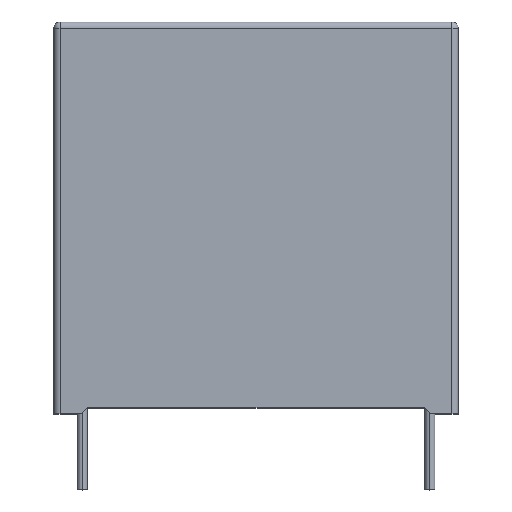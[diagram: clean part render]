
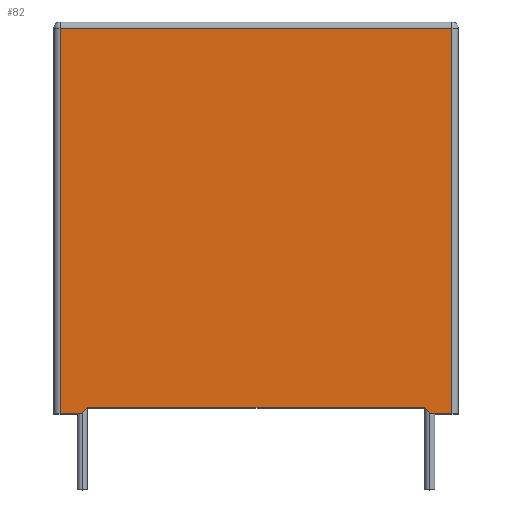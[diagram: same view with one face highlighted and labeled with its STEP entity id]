
A CAD part, top view. The second image highlights one B-rep face of the part: STEP entity #82.
In plain terms, the highlighted planar face has unit normal (0, 0, 1).
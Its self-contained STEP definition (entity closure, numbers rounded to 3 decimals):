
#8 = EDGE_CURVE ( 'NONE', #3207, #3250, #1920, .T. ) ;
#9 = EDGE_CURVE ( 'NONE', #2718, #3250, #1917, .T. ) ;
#82 = ADVANCED_FACE ( 'NONE', ( #1452 ), #2416, .F. ) ;
#87 = VECTOR ( 'NONE', #1010, 1000. ) ;
#250 = DIRECTION ( 'NONE',  ( 1., 0., 0. ) ) ;
#314 = EDGE_CURVE ( 'NONE', #3143, #3207, #4248, .T. ) ;
#511 = CARTESIAN_POINT ( 'NONE',  ( -13.8, 0., 9. ) ) ;
#620 = VECTOR ( 'NONE', #979, 1000. ) ;
#979 = DIRECTION ( 'NONE',  ( -0.707, 0.707, 0. ) ) ;
#1010 = DIRECTION ( 'NONE',  ( 0., 1., 0. ) ) ;
#1024 = CARTESIAN_POINT ( 'NONE',  ( 15.5, 0., 9. ) ) ;
#1100 = LINE ( 'NONE', #1313, #620 ) ;
#1250 = LINE ( 'NONE', #2720, #87 ) ;
#1313 = CARTESIAN_POINT ( 'NONE',  ( 13.3, 0.5, 9. ) ) ;
#1314 = VECTOR ( 'NONE', #2650, 1000. ) ;
#1343 = LINE ( 'NONE', #1889, #1314 ) ;
#1452 = FACE_OUTER_BOUND ( 'NONE', #1906, .T. ) ;
#1604 = CARTESIAN_POINT ( 'NONE',  ( -15.5, 0., 9. ) ) ;
#1661 = VERTEX_POINT ( 'NONE', #3042 ) ;
#1841 = CARTESIAN_POINT ( 'NONE',  ( -16., 30.5, 9. ) ) ;
#1849 = VECTOR ( 'NONE', #3015, 1000. ) ;
#1889 = CARTESIAN_POINT ( 'NONE',  ( -13.3, 0.5, 9. ) ) ;
#1905 = VECTOR ( 'NONE', #2823, 1000. ) ;
#1906 = EDGE_LOOP ( 'NONE', ( #3696, #3757, #3759, #3808, #3831, #3872, #3882, #3942 ) ) ;
#1917 = LINE ( 'NONE', #2943, #1849 ) ;
#1920 = LINE ( 'NONE', #2874, #1905 ) ;
#2018 = EDGE_CURVE ( 'NONE', #2524, #2718, #1343, .T. ) ;
#2276 = EDGE_CURVE ( 'NONE', #2277, #2524, #1100, .T. ) ;
#2277 = VERTEX_POINT ( 'NONE', #3280 ) ;
#2306 = EDGE_CURVE ( 'NONE', #2384, #1661, #1250, .T. ) ;
#2342 = DIRECTION ( 'NONE',  ( -1., 0., 0. ) ) ;
#2354 = DIRECTION ( 'NONE',  ( 0., 0., -1. ) ) ;
#2369 = CARTESIAN_POINT ( 'NONE',  ( -16., 31., 9. ) ) ;
#2384 = VERTEX_POINT ( 'NONE', #1024 ) ;
#2416 = PLANE ( 'NONE',  #4023 ) ;
#2524 = VERTEX_POINT ( 'NONE', #2843 ) ;
#2650 = DIRECTION ( 'NONE',  ( -1., 0., 0. ) ) ;
#2662 = EDGE_CURVE ( 'NONE', #1661, #3143, #3682, .T. ) ;
#2718 = VERTEX_POINT ( 'NONE', #3412 ) ;
#2720 = CARTESIAN_POINT ( 'NONE',  ( 15.5, 31., 9. ) ) ;
#2823 = DIRECTION ( 'NONE',  ( 1., 0., 0. ) ) ;
#2843 = CARTESIAN_POINT ( 'NONE',  ( 13.3, 0.5, 9. ) ) ;
#2874 = CARTESIAN_POINT ( 'NONE',  ( -16., 0., 9. ) ) ;
#2943 = CARTESIAN_POINT ( 'NONE',  ( -13.8, 0., 9. ) ) ;
#3015 = DIRECTION ( 'NONE',  ( -0.707, -0.707, 0. ) ) ;
#3042 = CARTESIAN_POINT ( 'NONE',  ( 15.5, 30.5, 9. ) ) ;
#3143 = VERTEX_POINT ( 'NONE', #3213 ) ;
#3207 = VERTEX_POINT ( 'NONE', #1604 ) ;
#3213 = CARTESIAN_POINT ( 'NONE',  ( -15.5, 30.5, 9. ) ) ;
#3250 = VERTEX_POINT ( 'NONE', #511 ) ;
#3280 = CARTESIAN_POINT ( 'NONE',  ( 13.8, 0., 9. ) ) ;
#3316 = CARTESIAN_POINT ( 'NONE',  ( -16., 0., 9. ) ) ;
#3412 = CARTESIAN_POINT ( 'NONE',  ( -13.3, 0.5, 9. ) ) ;
#3682 = LINE ( 'NONE', #1841, #4291 ) ;
#3696 = ORIENTED_EDGE ( 'NONE', *, *, #2018, .F. ) ;
#3757 = ORIENTED_EDGE ( 'NONE', *, *, #2276, .F. ) ;
#3759 = ORIENTED_EDGE ( 'NONE', *, *, #3884, .T. ) ;
#3762 = DIRECTION ( 'NONE',  ( 0., -1., 0. ) ) ;
#3808 = ORIENTED_EDGE ( 'NONE', *, *, #2306, .T. ) ;
#3831 = ORIENTED_EDGE ( 'NONE', *, *, #2662, .T. ) ;
#3864 = VECTOR ( 'NONE', #250, 1000. ) ;
#3872 = ORIENTED_EDGE ( 'NONE', *, *, #314, .T. ) ;
#3876 = LINE ( 'NONE', #3316, #3864 ) ;
#3882 = ORIENTED_EDGE ( 'NONE', *, *, #8, .T. ) ;
#3884 = EDGE_CURVE ( 'NONE', #2277, #2384, #3876, .T. ) ;
#3889 = CARTESIAN_POINT ( 'NONE',  ( -15.5, 31., 9. ) ) ;
#3942 = ORIENTED_EDGE ( 'NONE', *, *, #9, .F. ) ;
#3968 = DIRECTION ( 'NONE',  ( -1., 0., 0. ) ) ;
#4023 = AXIS2_PLACEMENT_3D ( 'NONE', #2369, #2354, #2342 ) ;
#4174 = VECTOR ( 'NONE', #3762, 1000. ) ;
#4248 = LINE ( 'NONE', #3889, #4174 ) ;
#4291 = VECTOR ( 'NONE', #3968, 1000. ) ;
